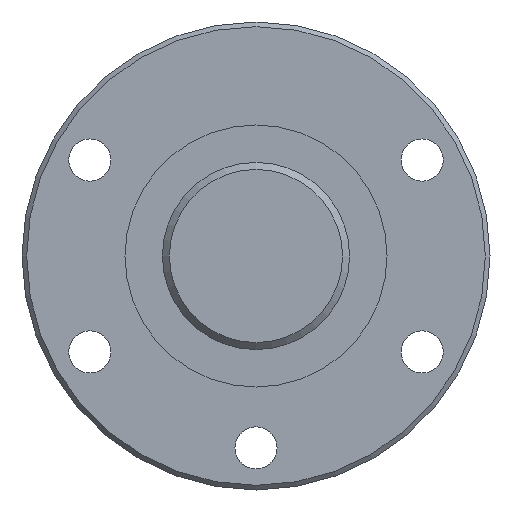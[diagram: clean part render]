
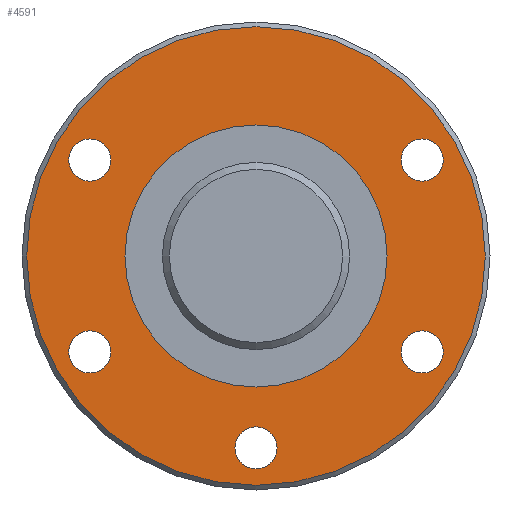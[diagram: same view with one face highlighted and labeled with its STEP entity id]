
A CAD part, left-side view. The second image highlights one B-rep face of the part: STEP entity #4591.
In plain terms, the highlighted planar face has unit normal (-1, 0, 0).
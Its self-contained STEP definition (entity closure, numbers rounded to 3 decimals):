
#1679=ORIENTED_EDGE('',*,*,#2831,.T.);
#1680=ORIENTED_EDGE('',*,*,#2832,.T.);
#1681=ORIENTED_EDGE('',*,*,#2833,.T.);
#1682=ORIENTED_EDGE('',*,*,#2834,.T.);
#1683=ORIENTED_EDGE('',*,*,#2835,.T.);
#1684=ORIENTED_EDGE('',*,*,#2836,.T.);
#1685=ORIENTED_EDGE('',*,*,#2837,.F.);
#2831=EDGE_CURVE('',#3391,#3391,#3560,.T.);
#2832=EDGE_CURVE('',#3392,#3392,#3561,.T.);
#2833=EDGE_CURVE('',#3393,#3393,#3562,.T.);
#2834=EDGE_CURVE('',#3394,#3394,#3563,.T.);
#2835=EDGE_CURVE('',#3395,#3395,#3564,.T.);
#2836=EDGE_CURVE('',#3396,#3396,#3565,.T.);
#2837=EDGE_CURVE('',#3397,#3397,#3566,.T.);
#3391=VERTEX_POINT('',#7345);
#3392=VERTEX_POINT('',#7347);
#3393=VERTEX_POINT('',#7349);
#3394=VERTEX_POINT('',#7351);
#3395=VERTEX_POINT('',#7353);
#3396=VERTEX_POINT('',#7355);
#3397=VERTEX_POINT('',#7357);
#3560=CIRCLE('',#4901,28.);
#3561=CIRCLE('',#4902,4.5);
#3562=CIRCLE('',#4903,4.5);
#3563=CIRCLE('',#4904,4.5);
#3564=CIRCLE('',#4905,4.5);
#3565=CIRCLE('',#4906,4.5);
#3566=CIRCLE('',#4907,49.);
#3757=EDGE_LOOP('',(#1679));
#3758=EDGE_LOOP('',(#1680));
#3759=EDGE_LOOP('',(#1681));
#3760=EDGE_LOOP('',(#1682));
#3761=EDGE_LOOP('',(#1683));
#3762=EDGE_LOOP('',(#1684));
#3763=EDGE_LOOP('',(#1685));
#4087=FACE_BOUND('',#3757,.T.);
#4088=FACE_BOUND('',#3758,.T.);
#4089=FACE_BOUND('',#3759,.T.);
#4090=FACE_BOUND('',#3760,.T.);
#4091=FACE_BOUND('',#3761,.T.);
#4092=FACE_BOUND('',#3762,.T.);
#4093=FACE_BOUND('',#3763,.T.);
#4392=PLANE('',#4900);
#4591=ADVANCED_FACE('',(#4087,#4088,#4089,#4090,#4091,#4092,#4093),#4392,
 .T.);
#4900=AXIS2_PLACEMENT_3D('',#7343,#5749,#5750);
#4901=AXIS2_PLACEMENT_3D('',#7344,#5751,#5752);
#4902=AXIS2_PLACEMENT_3D('',#7346,#5753,#5754);
#4903=AXIS2_PLACEMENT_3D('',#7348,#5755,#5756);
#4904=AXIS2_PLACEMENT_3D('',#7350,#5757,#5758);
#4905=AXIS2_PLACEMENT_3D('',#7352,#5759,#5760);
#4906=AXIS2_PLACEMENT_3D('',#7354,#5761,#5762);
#4907=AXIS2_PLACEMENT_3D('',#7356,#5763,#5764);
#5749=DIRECTION('',(-1.,0.,0.));
#5750=DIRECTION('',(0.,0.,1.));
#5751=DIRECTION('',(1.,0.,0.));
#5752=DIRECTION('',(0.,0.,-1.));
#5753=DIRECTION('',(1.,0.,0.));
#5754=DIRECTION('',(0.,0.,-1.));
#5755=DIRECTION('',(1.,0.,0.));
#5756=DIRECTION('',(0.,0.,-1.));
#5757=DIRECTION('',(1.,0.,0.));
#5758=DIRECTION('',(0.,0.,-1.));
#5759=DIRECTION('',(1.,0.,0.));
#5760=DIRECTION('',(0.,0.,-1.));
#5761=DIRECTION('',(1.,0.,0.));
#5762=DIRECTION('',(0.,0.,-1.));
#5763=DIRECTION('',(1.,0.,0.));
#5764=DIRECTION('',(0.,0.,-1.));
#7343=CARTESIAN_POINT('',(0.,49.,0.));
#7344=CARTESIAN_POINT('',(0.,0.,0.));
#7345=CARTESIAN_POINT('',(0.,0.,-28.));
#7346=CARTESIAN_POINT('',(0.,-41.,0.));
#7347=CARTESIAN_POINT('',(0.,-41.,-4.5));
#7348=CARTESIAN_POINT('',(0.,-20.5,35.507));
#7349=CARTESIAN_POINT('',(0.,-20.5,31.007));
#7350=CARTESIAN_POINT('',(0.,20.5,-35.507));
#7351=CARTESIAN_POINT('',(0.,20.5,-40.007));
#7352=CARTESIAN_POINT('',(0.,-20.5,-35.507));
#7353=CARTESIAN_POINT('',(0.,-20.5,-40.007));
#7354=CARTESIAN_POINT('',(0.,20.5,35.507));
#7355=CARTESIAN_POINT('',(0.,20.5,31.007));
#7356=CARTESIAN_POINT('',(0.,0.,0.));
#7357=CARTESIAN_POINT('',(0.,0.,-49.));
